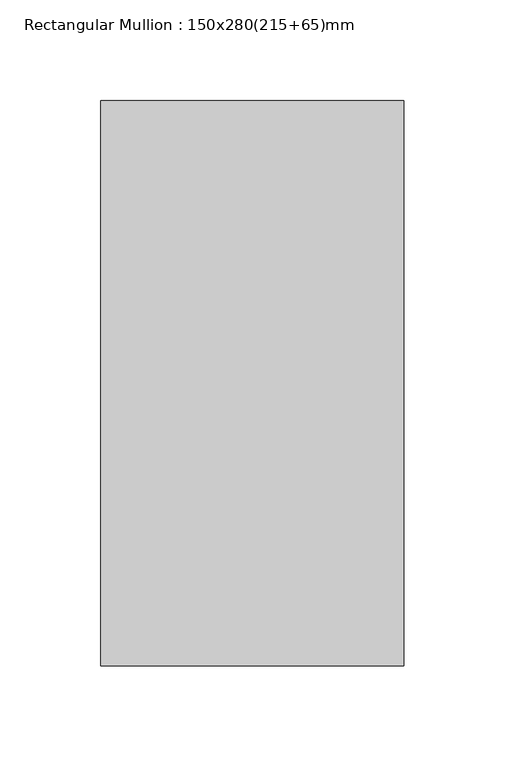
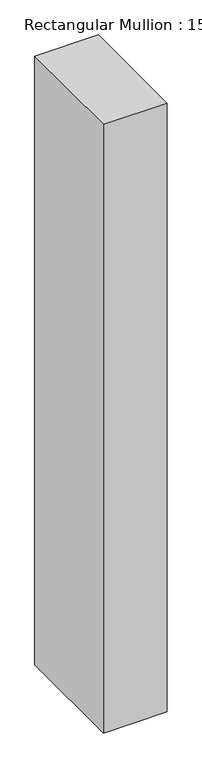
"""IFC4 building model written with IfcOpenShell, lengths in millimetres: member geometry, Rectangular Mullion : 150x280(215+65)mm."""

from ifc_helpers import new_model, si_unit, frame, origin, place, context, project, spatial, polyline, outline, extrude, source, transform, mapped, element, save


def rectangular_mullion_150x280_215_65_mm_37f6a4af(model_context):
    return source(origin(), model_context, "Body", "SweptSolid", [
        extrude(outline(polyline([(75.0, 215.0), (75.0, -65.0), (-75.0, -65.0), (-75.0, 215.0), (75.0, 215.0)])), frame((0.0, 0.0, -1515.0000003), z_axis=(0.0, 0.0, 1.0), x_axis=(1.0, 0.0, 0.0)), (0.0, 0.0, 1.0), 1515.0000003),
    ])


if __name__ == "__main__":
    model = new_model("IFC4")
    model_context = context("Model", 3, world=origin())
    ifc_project = project(units=[si_unit("LENGTHUNIT", "METRE", prefix="MILLI")], contexts=[model_context])
    site = spatial("IfcSite", under=ifc_project)
    building = spatial("IfcBuilding", under=site)
    placement = place(None, origin())
    rectangular_mullion_150x280_215_65_mm_shape = rectangular_mullion_150x280_215_65_mm_37f6a4af(model_context)
    element("IfcMember", 1, ObjectType="Rectangular Mullion : 150x280(215+65)mm", at=placement, inside=building, context=model_context, shape_type="MappedRepresentation", body=[
        mapped(rectangular_mullion_150x280_215_65_mm_shape, transform((0.0, 0.0, 0.0), x_axis=(1.0, 0.0, 0.0), y_axis=(0.0, 1.0, 0.0), z_axis=(0.0, 0.0, 1.0))),
    ])
    save(model, "model.ifc")
